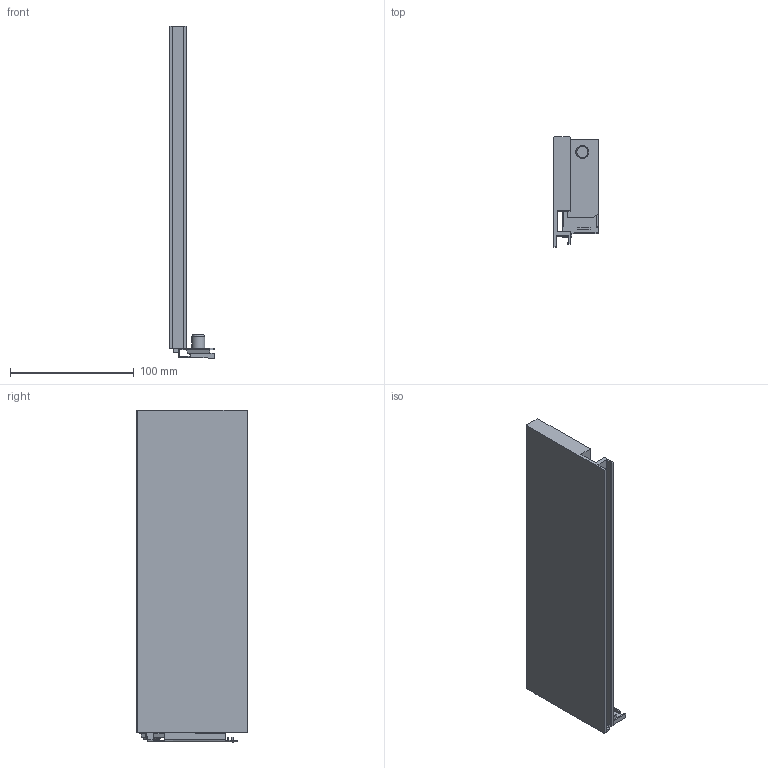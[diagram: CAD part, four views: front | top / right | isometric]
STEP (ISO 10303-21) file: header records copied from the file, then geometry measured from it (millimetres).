
FILE_DESCRIPTION (( 'STEP AP214' ), '1' );
FILE_NAME ('Vionaro_Alu-Zarge_H89_NL270_LI.STEP', '2014-08-14T10:07:55', ( '' ), ( '' ), 'SwSTEP 2.0', 'SolidWorks 2013', '' );
FILE_SCHEMA (( 'AUTOMOTIVE_DESIGN' ));
Length unit declared in the file: millimetre
Products named in the file (1): Vionaro_Alu-Zarge_H89_NL270_LI
Bounding box: 35.6 x 89 x 267.9 mm (x, y, z)
Volume: 240255.7 mm3; surface area: 72528.4 mm2
Topology: 1 solids, 1 shells, 98 faces, 266 edges, 174 vertices
Faces by surface type: plane 80, cylinder 14, cone 4
Entity records: 3082 total; most frequent: CARTESIAN_POINT 545, ORIENTED_EDGE 532, DIRECTION 496, EDGE_CURVE 266, VECTOR 230, LINE 230, VERTEX_POINT 174, AXIS2_PLACEMENT_3D 133
